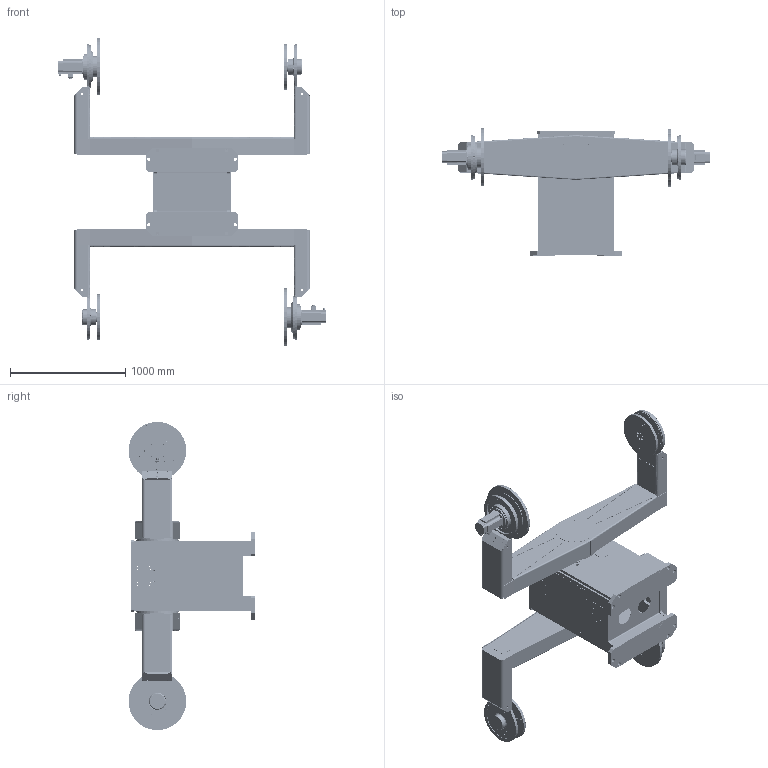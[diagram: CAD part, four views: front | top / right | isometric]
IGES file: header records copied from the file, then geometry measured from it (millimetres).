
Start section: SolidWorks IGES file using analytic representation for surfaces
Global section: file name: S:\Standardpositionierer\3D-Modelle (reduziert)\B2C\140675red\140675red.IGS; native system: SolidWorks 2007; preprocessor: SolidWorks 2007; author: loeschner; date: 081021.113317; units: millimetre
Bounding box: 2332 x 1099.98 x 2673.91 mm (x, y, z)
Surface area: 25897783.6 mm2 (no closed solid volume)
Topology: 0 solids, 0 shells, 6397 faces, 131948 edges, 131398 vertices
Faces by surface type: revolution 4382, bspline 2015
